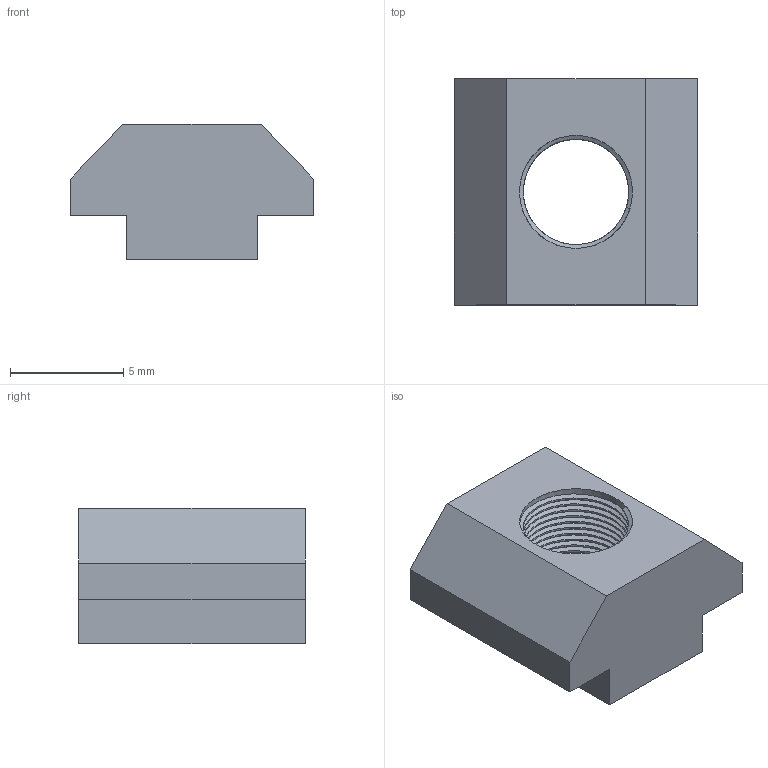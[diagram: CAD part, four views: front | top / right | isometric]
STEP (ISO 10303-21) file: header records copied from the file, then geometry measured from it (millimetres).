
FILE_DESCRIPTION (( 'STEP AP203' ), '1' );
FILE_NAME ('AlExtrusionFixingNut.step', '2026-07-10T19:43:31', ( '' ), ( '' ), 'SwSTEP 2.0', 'SolidWorks 2024', '' );
FILE_SCHEMA (( 'CONFIG_CONTROL_DESIGN' ));
Length unit declared in the file: millimetre
Products named in the file (1): AlExtrusionFixingNut
Bounding box: 10.76 x 10 x 5.99 mm (x, y, z)
Volume: 382.7 mm3; surface area: 511.3 mm2
Topology: 1 solids, 1 shells, 54 faces, 153 edges, 101 vertices
Faces by surface type: cylinder 37, plane 14, bspline 3
Entity records: 3731 total; most frequent: CARTESIAN_POINT 2488, ORIENTED_EDGE 306, DIRECTION 181, EDGE_CURVE 153, VERTEX_POINT 101, LINE 69, VECTOR 69, AXIS2_PLACEMENT_3D 56
